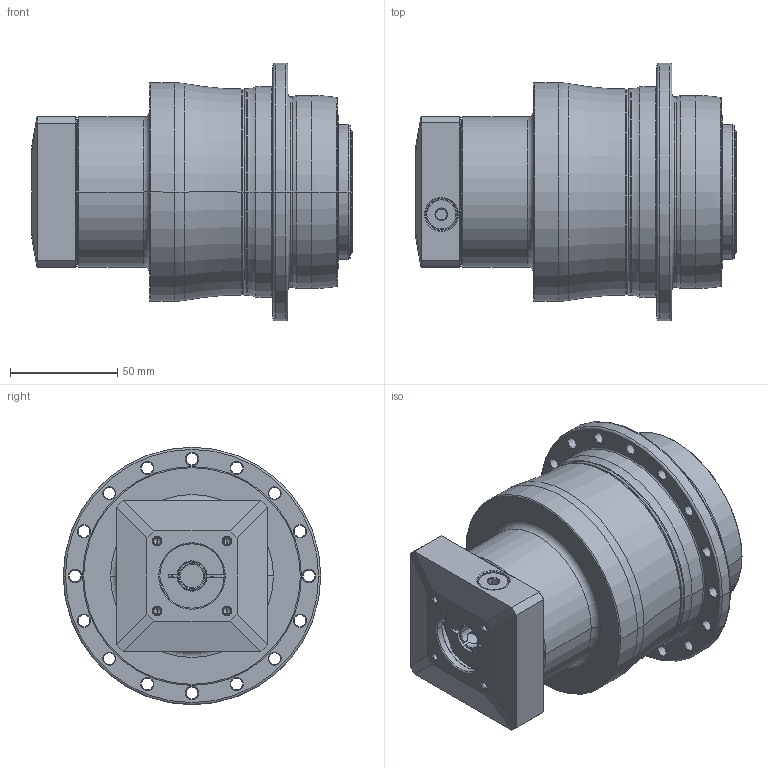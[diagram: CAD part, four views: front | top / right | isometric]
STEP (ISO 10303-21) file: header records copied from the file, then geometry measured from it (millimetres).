
FILE_DESCRIPTION((''),'2;1');
FILE_NAME('AP090_3ST_11-P0409200201_ASM','2018-10-16T',('d01226'),(''),'PRO/ENGINEER BY PARAMETRIC TECHNOLOGY CORPORATION, 2015240','PRO/ENGINEER BY PARAMETRIC TECHNOLOGY CORPORATION, 2015240','');
FILE_SCHEMA(('CONFIG_CONTROL_DESIGN'));
Length unit declared in the file: millimetre
Products named in the file (9): P0278301003; P0359301103; P1366300101; P0503200005; P0912101001; P1211300001; P0409200201; 21711410012; AP090_3ST_11-P0409200201_ASM
Assembly tree (8 placements, depth 2):
  AP090_3ST_11-P0409200201_ASM
    P0278301003
    P0359301103
    P1366300101
    P0503200005
    P0912101001
    P1211300001
    P0409200201
    21711410012
Bounding box: 149.5 x 120 x 120 mm (x, y, z)
Volume: 732209.9 mm3; surface area: 136800.2 mm2
Topology: 9 solids, 30 shells, 573 faces, 1321 edges, 810 vertices
Faces by surface type: cylinder 236, cone 148, plane 101, torus 74, bspline 14
Entity records: 21039 total; most frequent: CARTESIAN_POINT 7354, DIRECTION 3146, ORIENTED_EDGE 2540, AXIS2_PLACEMENT_3D 1348, EDGE_CURVE 1313, VERTEX_POINT 810, CIRCLE 762, EDGE_LOOP 697
